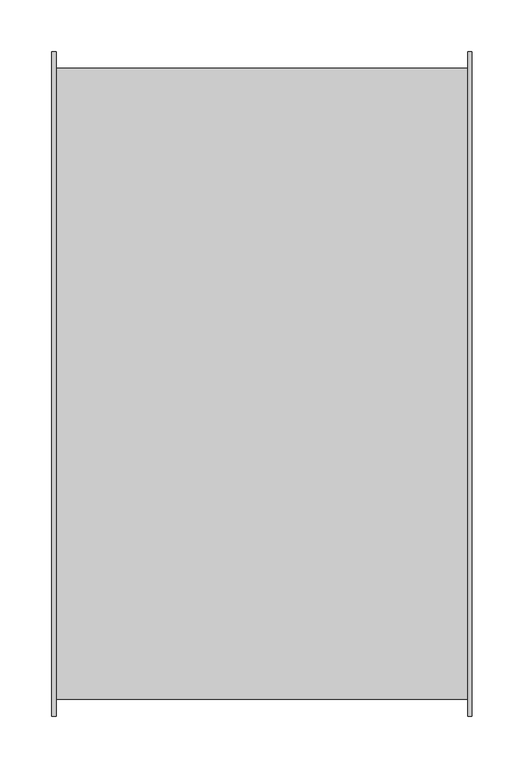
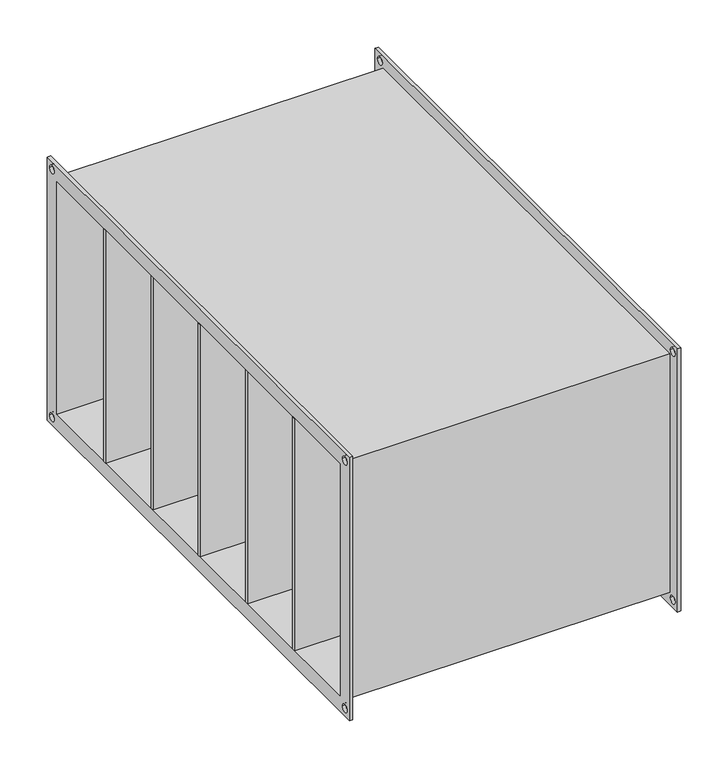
"""IFC4 building model written with IfcOpenShell, lengths in millimetres: damper geometry, СВ_ФильтрКарманныйУкороченный_КанальныйПрямоугольный_200-1000_SFPKU : SFPKU-600x300."""

from ifc_helpers import new_model, si_unit, frame, origin, place, context, project, spatial, polyline, circle_curve, outline, extrude, source, transform, mapped, element, save
from ifc_brep_helpers import plane_surface, revolved_surface, advanced_brep


def damper_45b8d120(model_context):
    return source(origin(), model_context, "Body", "SolidModel", [
        extrude(outline(polyline([(202.5, 200.0), (202.5, 196.0), (-202.5, 196.0), (-202.5, 200.0), (202.5, 200.0)])), frame((0.0, 0.0, -150.0), z_axis=(0.0, 0.0, 1.0), x_axis=(1.0, 0.0, 0.0)), (0.0, 0.0, 1.0), 300.0),
        extrude(outline(polyline([(202.5, 100.0), (202.5, 96.0), (-202.5, 96.0), (-202.5, 100.0), (202.5, 100.0)])), frame((0.0, 0.0, -150.0), z_axis=(0.0, 0.0, 1.0), x_axis=(1.0, 0.0, 0.0)), (0.0, 0.0, 1.0), 300.0),
        extrude(outline(polyline([(202.5, 0.0), (202.5, -4.0), (-202.5, -4.0), (-202.5, 0.0), (202.5, 0.0)])), frame((0.0, 0.0, -150.0), z_axis=(0.0, 0.0, 1.0), x_axis=(1.0, 0.0, 0.0)), (0.0, 0.0, 1.0), 300.0),
        extrude(outline(polyline([(202.5, -100.0), (202.5, -104.0), (-202.5, -104.0), (-202.5, -100.0), (202.5, -100.0)])), frame((0.0, 0.0, -150.0), z_axis=(0.0, 0.0, 1.0), x_axis=(1.0, 0.0, 0.0)), (0.0, 0.0, 1.0), 300.0),
        extrude(outline(polyline([(202.5, -200.0), (202.5, -204.0), (-202.5, -204.0), (-202.5, -200.0), (202.5, -200.0)])), frame((0.0, 0.0, -150.0), z_axis=(0.0, 0.0, 1.0), x_axis=(1.0, 0.0, 0.0)), (0.0, 0.0, 1.0), 300.0),
        advanced_brep(
        [(198.5, -304.0, 154.0), (-198.5, -304.0, 154.0), (-198.5, -304.0, -154.0), (198.5, -304.0, -154.0), (-198.5, 304.0, -154.0), (198.5, 304.0, -154.0), (-198.5, 304.0, 154.0), (198.5, 304.0, 154.0), (-202.5, -320.0, 170.0), (-202.5, 320.0, 170.0), (-202.5, 320.0, -170.0), (-202.5, -320.0, -170.0), (-202.5, -300.0, 150.0), (-202.5, -300.0, -150.0), (-202.5, 300.0, -150.0), (-202.5, 300.0, 150.0), (-202.5, 305.0, 160.0), (-202.5, 315.0, 160.0), (-202.5, -315.0, 160.0), (-202.5, -305.0, 160.0), (-202.5, -315.0, -160.0), (-202.5, -305.0, -160.0), (-202.5, 305.0, -160.0), (-202.5, 315.0, -160.0), (-198.5, -320.0, 170.0), (-198.5, -320.0, -170.0), (-198.5, 320.0, -170.0), (-198.5, 320.0, 170.0), (-198.5, 315.0, 160.0), (-198.5, 305.0, 160.0), (-198.5, -305.0, 160.0), (-198.5, -315.0, 160.0), (-198.5, -305.0, -160.0), (-198.5, -315.0, -160.0), (-198.5, 315.0, -160.0), (-198.5, 305.0, -160.0), (202.5, 300.0, 150.0), (202.5, -300.0, 150.0), (202.5, 300.0, -150.0), (202.5, -300.0, -150.0), (198.5, 320.0, 170.0), (198.5, 320.0, -170.0), (198.5, -320.0, -170.0), (198.5, -320.0, 170.0), (198.5, 305.0, 160.0), (198.5, 315.0, 160.0), (198.5, -315.0, 160.0), (198.5, -305.0, 160.0), (198.5, -315.0, -160.0), (198.5, -305.0, -160.0), (198.5, 305.0, -160.0), (198.5, 315.0, -160.0), (202.5, 320.0, 170.0), (202.5, -320.0, 170.0), (202.5, -320.0, -170.0), (202.5, 320.0, -170.0), (202.5, 315.0, 160.0), (202.5, 305.0, 160.0), (202.5, -305.0, 160.0), (202.5, -315.0, 160.0), (202.5, -305.0, -160.0), (202.5, -315.0, -160.0), (202.5, 315.0, -160.0), (202.5, 305.0, -160.0)],
        [
            (0, 1),
            (1, 2),
            (2, 3),
            (3, 0),
            (2, 4),
            (4, 5),
            (5, 3),
            (4, 6),
            (6, 7),
            (7, 5),
            (0, 7),
            (6, 1),
            (8, 9),
            (9, 10),
            (10, 11),
            (11, 8),
            (12, 13),
            (13, 14),
            (14, 15),
            (15, 12),
            (16, 17, circle_curve(frame((-202.5, 310.0, 160.0), z_axis=(1.0, 0.0, 0.0), x_axis=(0.0, 1.0, 0.0)), 5.0)),
            (17, 16, circle_curve(frame((-202.5, 310.0, 160.0), z_axis=(1.0, 0.0, 0.0), x_axis=(0.0, 1.0, 0.0)), 5.0)),
            (18, 19, circle_curve(frame((-202.5, -310.0, 160.0), z_axis=(1.0, 0.0, 0.0), x_axis=(0.0, 1.0, 0.0)), 5.0)),
            (19, 18, circle_curve(frame((-202.5, -310.0, 160.0), z_axis=(1.0, 0.0, 0.0), x_axis=(0.0, 1.0, 0.0)), 5.0)),
            (20, 21, circle_curve(frame((-202.5, -310.0, -160.0), z_axis=(1.0, 0.0, 0.0), x_axis=(0.0, 1.0, 0.0)), 5.0)),
            (21, 20, circle_curve(frame((-202.5, -310.0, -160.0), z_axis=(1.0, 0.0, 0.0), x_axis=(0.0, 1.0, 0.0)), 5.0)),
            (22, 23, circle_curve(frame((-202.5, 310.0, -160.0), z_axis=(1.0, 0.0, 0.0), x_axis=(0.0, 1.0, 0.0)), 5.0)),
            (23, 22, circle_curve(frame((-202.5, 310.0, -160.0), z_axis=(1.0, 0.0, 0.0), x_axis=(0.0, 1.0, 0.0)), 5.0)),
            (24, 25),
            (25, 26),
            (26, 27),
            (27, 24),
            (28, 29, circle_curve(frame((-198.5, 310.0, 160.0), z_axis=(-1.0, 0.0, 0.0), x_axis=(0.0, 1.0, 0.0)), 5.0)),
            (29, 28, circle_curve(frame((-198.5, 310.0, 160.0), z_axis=(-1.0, 0.0, 0.0), x_axis=(0.0, 1.0, 0.0)), 5.0)),
            (30, 31, circle_curve(frame((-198.5, -310.0, 160.0), z_axis=(-1.0, 0.0, 0.0), x_axis=(0.0, 1.0, 0.0)), 5.0)),
            (31, 30, circle_curve(frame((-198.5, -310.0, 160.0), z_axis=(-1.0, 0.0, 0.0), x_axis=(0.0, 1.0, 0.0)), 5.0)),
            (32, 33, circle_curve(frame((-198.5, -310.0, -160.0), z_axis=(-1.0, 0.0, 0.0), x_axis=(0.0, 1.0, 0.0)), 5.0)),
            (33, 32, circle_curve(frame((-198.5, -310.0, -160.0), z_axis=(-1.0, 0.0, 0.0), x_axis=(0.0, 1.0, 0.0)), 5.0)),
            (34, 35, circle_curve(frame((-198.5, 310.0, -160.0), z_axis=(-1.0, 0.0, 0.0), x_axis=(0.0, 1.0, 0.0)), 5.0)),
            (35, 34, circle_curve(frame((-198.5, 310.0, -160.0), z_axis=(-1.0, 0.0, 0.0), x_axis=(0.0, 1.0, 0.0)), 5.0)),
            (11, 25),
            (24, 8),
            (10, 26),
            (9, 27),
            (15, 36),
            (36, 37),
            (37, 12),
            (14, 38),
            (38, 36),
            (13, 39),
            (39, 38),
            (37, 39),
            (40, 41),
            (41, 42),
            (42, 43),
            (43, 40),
            (44, 45, circle_curve(frame((198.5, 310.0, 160.0), z_axis=(1.0, 0.0, 0.0), x_axis=(0.0, 1.0, 0.0)), 5.0)),
            (45, 44, circle_curve(frame((198.5, 310.0, 160.0), z_axis=(1.0, 0.0, 0.0), x_axis=(0.0, 1.0, 0.0)), 5.0)),
            (46, 47, circle_curve(frame((198.5, -310.0, 160.0), z_axis=(1.0, 0.0, 0.0), x_axis=(0.0, 1.0, 0.0)), 5.0)),
            (47, 46, circle_curve(frame((198.5, -310.0, 160.0), z_axis=(1.0, 0.0, 0.0), x_axis=(0.0, 1.0, 0.0)), 5.0)),
            (48, 49, circle_curve(frame((198.5, -310.0, -160.0), z_axis=(1.0, 0.0, 0.0), x_axis=(0.0, 1.0, 0.0)), 5.0)),
            (49, 48, circle_curve(frame((198.5, -310.0, -160.0), z_axis=(1.0, 0.0, 0.0), x_axis=(0.0, 1.0, 0.0)), 5.0)),
            (50, 51, circle_curve(frame((198.5, 310.0, -160.0), z_axis=(1.0, 0.0, 0.0), x_axis=(0.0, 1.0, 0.0)), 5.0)),
            (51, 50, circle_curve(frame((198.5, 310.0, -160.0), z_axis=(1.0, 0.0, 0.0), x_axis=(0.0, 1.0, 0.0)), 5.0)),
            (52, 53),
            (53, 54),
            (54, 55),
            (55, 52),
            (56, 57, circle_curve(frame((202.5, 310.0, 160.0), z_axis=(-1.0, 0.0, 0.0), x_axis=(0.0, 1.0, 0.0)), 5.0)),
            (57, 56, circle_curve(frame((202.5, 310.0, 160.0), z_axis=(-1.0, 0.0, 0.0), x_axis=(0.0, 1.0, 0.0)), 5.0)),
            (58, 59, circle_curve(frame((202.5, -310.0, 160.0), z_axis=(-1.0, 0.0, 0.0), x_axis=(0.0, 1.0, 0.0)), 5.0)),
            (59, 58, circle_curve(frame((202.5, -310.0, 160.0), z_axis=(-1.0, 0.0, 0.0), x_axis=(0.0, 1.0, 0.0)), 5.0)),
            (60, 61, circle_curve(frame((202.5, -310.0, -160.0), z_axis=(-1.0, 0.0, 0.0), x_axis=(0.0, 1.0, 0.0)), 5.0)),
            (61, 60, circle_curve(frame((202.5, -310.0, -160.0), z_axis=(-1.0, 0.0, 0.0), x_axis=(0.0, 1.0, 0.0)), 5.0)),
            (62, 63, circle_curve(frame((202.5, 310.0, -160.0), z_axis=(-1.0, 0.0, 0.0), x_axis=(0.0, 1.0, 0.0)), 5.0)),
            (63, 62, circle_curve(frame((202.5, 310.0, -160.0), z_axis=(-1.0, 0.0, 0.0), x_axis=(0.0, 1.0, 0.0)), 5.0)),
            (43, 53),
            (52, 40),
            (42, 54),
            (41, 55),
            (16, 29),
            (28, 17),
            (44, 57),
            (56, 45),
            (18, 31),
            (30, 19),
            (46, 59),
            (58, 47),
            (20, 33),
            (32, 21),
            (48, 61),
            (60, 49),
            (22, 35),
            (34, 23),
            (50, 63),
            (62, 51),
        ],
        [
            plane_surface(frame((198.5, -304.0, 154.0), z_axis=(0.0, -1.0, 0.0), x_axis=(-1.0, 0.0, 0.0))),
            plane_surface(frame((198.5, -304.0, -154.0), z_axis=(0.0, 0.0, -1.0), x_axis=(-1.0, 0.0, 0.0))),
            plane_surface(frame((198.5, 304.0, -154.0), z_axis=(0.0, 1.0, 0.0), x_axis=(-1.0, 0.0, 0.0))),
            plane_surface(frame((198.5, 304.0, 154.0), z_axis=(0.0, 0.0, 1.0), x_axis=(-1.0, 0.0, 0.0))),
            plane_surface(frame((-202.5, -320.0, 170.0), z_axis=(-1.0, 0.0, 0.0), x_axis=(0.0, 0.0, 1.0))),
            plane_surface(frame((-198.5, -320.0, 170.0), z_axis=(1.0, 0.0, 0.0), x_axis=(0.0, 0.0, -1.0))),
            plane_surface(frame((-198.5, -320.0, 170.0), z_axis=(0.0, -1.0, 0.0), x_axis=(-1.0, 0.0, 0.0))),
            plane_surface(frame((-198.5, -320.0, -170.0), z_axis=(0.0, 0.0, -1.0), x_axis=(-1.0, 0.0, 0.0))),
            plane_surface(frame((-198.5, 320.0, -170.0), z_axis=(0.0, 1.0, 0.0), x_axis=(-1.0, 0.0, 0.0))),
            plane_surface(frame((-198.5, 320.0, 170.0), z_axis=(0.0, 0.0, 1.0), x_axis=(-1.0, 0.0, 0.0))),
            plane_surface(frame((-198.5, -300.0, 150.0), z_axis=(0.0, 0.0, -1.0), x_axis=(-1.0, 0.0, 0.0))),
            plane_surface(frame((-198.5, 300.0, 150.0), z_axis=(0.0, -1.0, 0.0), x_axis=(-1.0, 0.0, 0.0))),
            plane_surface(frame((-198.5, 300.0, -150.0), z_axis=(0.0, 0.0, 1.0), x_axis=(-1.0, 0.0, 0.0))),
            plane_surface(frame((-198.5, -300.0, -150.0), z_axis=(0.0, 1.0, 0.0), x_axis=(-1.0, 0.0, 0.0))),
            plane_surface(frame((198.5, 300.0, -150.0), z_axis=(-1.0, 0.0, 0.0), x_axis=(0.0, 0.0, 1.0))),
            plane_surface(frame((202.5, 300.0, -150.0), z_axis=(1.0, 0.0, 0.0), x_axis=(0.0, 0.0, -1.0))),
            plane_surface(frame((202.5, 320.0, 170.0), z_axis=(0.0, 0.0, 1.0), x_axis=(-1.0, 0.0, 0.0))),
            plane_surface(frame((202.5, -320.0, 170.0), z_axis=(0.0, -1.0, 0.0), x_axis=(-1.0, 0.0, 0.0))),
            plane_surface(frame((202.5, -320.0, -170.0), z_axis=(0.0, 0.0, -1.0), x_axis=(-1.0, 0.0, 0.0))),
            plane_surface(frame((202.5, 320.0, -170.0), z_axis=(0.0, 1.0, 0.0), x_axis=(-1.0, 0.0, 0.0))),
            revolved_surface(polyline([(-198.5, 315.0, 160.0), (-202.5, 315.0, 160.0)]), (-202.5, 310.0, 160.0), (1.0, 0.0, 0.0)),
            revolved_surface(polyline([(202.5, 315.0, 160.0), (198.5, 315.0, 160.0)]), (-202.5, 310.0, 160.0), (1.0, 0.0, 0.0)),
            revolved_surface(polyline([(-198.5, -305.0, 160.0), (-202.5, -305.0, 160.0)]), (0.0, -310.0, 160.0), (1.0, 0.0, 0.0)),
            revolved_surface(polyline([(202.5, -305.0, 160.0), (198.5, -305.0, 160.0)]), (0.0, -310.0, 160.0), (1.0, 0.0, 0.0)),
            revolved_surface(polyline([(-198.5, -305.0, -160.0), (-202.5, -305.0, -160.0)]), (0.0, -310.0, -160.0), (1.0, 0.0, 0.0)),
            revolved_surface(polyline([(202.5, -305.0, -160.0), (198.5, -305.0, -160.0)]), (0.0, -310.0, -160.0), (1.0, 0.0, 0.0)),
            revolved_surface(polyline([(-198.5, 315.0, -160.0), (-202.5, 315.0, -160.0)]), (0.0, 310.0, -160.0), (1.0, 0.0, 0.0)),
            revolved_surface(polyline([(202.5, 315.0, -160.0), (198.5, 315.0, -160.0)]), (0.0, 310.0, -160.0), (1.0, 0.0, 0.0)),
        ],
        [
            (0, [[1, 2, 3, 4]]),
            (1, [[-3, 5, 6, 7]]),
            (2, [[-6, 8, 9, 10]]),
            (3, [[-1, 11, -9, 12]]),
            (4, [[13, 14, 15, 16], [17, 18, 19, 20], [21, 22], [23, 24], [25, 26], [27, 28]]),
            (5, [[29, 30, 31, 32], [-2, -12, -8, -5], [33, 34], [35, 36], [37, 38], [39, 40]]),
            (6, [[-16, 41, -29, 42]]),
            (7, [[-15, 43, -30, -41]]),
            (8, [[-14, 44, -31, -43]]),
            (9, [[-13, -42, -32, -44]]),
            (10, [[-20, 45, 46, 47]]),
            (11, [[-45, -19, 48, 49]]),
            (12, [[-48, -18, 50, 51]]),
            (13, [[-50, -17, -47, 52]]),
            (14, [[53, 54, 55, 56], [-4, -7, -10, -11], [57, 58], [59, 60], [61, 62], [63, 64]]),
            (15, [[65, 66, 67, 68], [-49, -51, -52, -46], [69, 70], [71, 72], [73, 74], [75, 76]]),
            (16, [[-56, 77, -65, 78]]),
            (17, [[-55, 79, -66, -77]]),
            (18, [[-54, 80, -67, -79]]),
            (19, [[-53, -78, -68, -80]]),
            (20, [[81, -33, 82, -21]]),
            (21, [[83, -69, 84, -57]]),
            (20, [[-81, -22, -82, -34]]),
            (21, [[-83, -58, -84, -70]]),
            (22, [[85, -35, 86, -23]]),
            (23, [[87, -71, 88, -59]]),
            (22, [[-85, -24, -86, -36]]),
            (23, [[-87, -60, -88, -72]]),
            (24, [[89, -37, 90, -25]]),
            (25, [[91, -73, 92, -61]]),
            (24, [[-89, -26, -90, -38]]),
            (25, [[-91, -62, -92, -74]]),
            (26, [[93, -39, 94, -27]]),
            (27, [[95, -75, 96, -63]]),
            (26, [[-93, -28, -94, -40]]),
            (27, [[-95, -64, -96, -76]]),
        ],
    ),
    ])


if __name__ == "__main__":
    model = new_model("IFC4")
    model_context = context("Model", 3, world=origin())
    ifc_project = project(units=[si_unit("LENGTHUNIT", "METRE", prefix="MILLI")], contexts=[model_context])
    site = spatial("IfcSite", under=ifc_project)
    building = spatial("IfcBuilding", under=site)
    placement = place(None, origin())
    damper_shape = damper_45b8d120(model_context)
    element("IfcDamper", 1, ObjectType="СВ_ФильтрКарманныйУкороченный_КанальныйПрямоугольный_200-1000_SFPKU : SFPKU-600x300", at=placement, inside=building, context=model_context, shape_type="MappedRepresentation", body=[
        mapped(damper_shape, transform((0.0, 0.0, 0.0), x_axis=(1.0, 0.0, 0.0), y_axis=(0.0, 1.0, 0.0), z_axis=(0.0, 0.0, 1.0))),
    ])
    save(model, "model.ifc")
